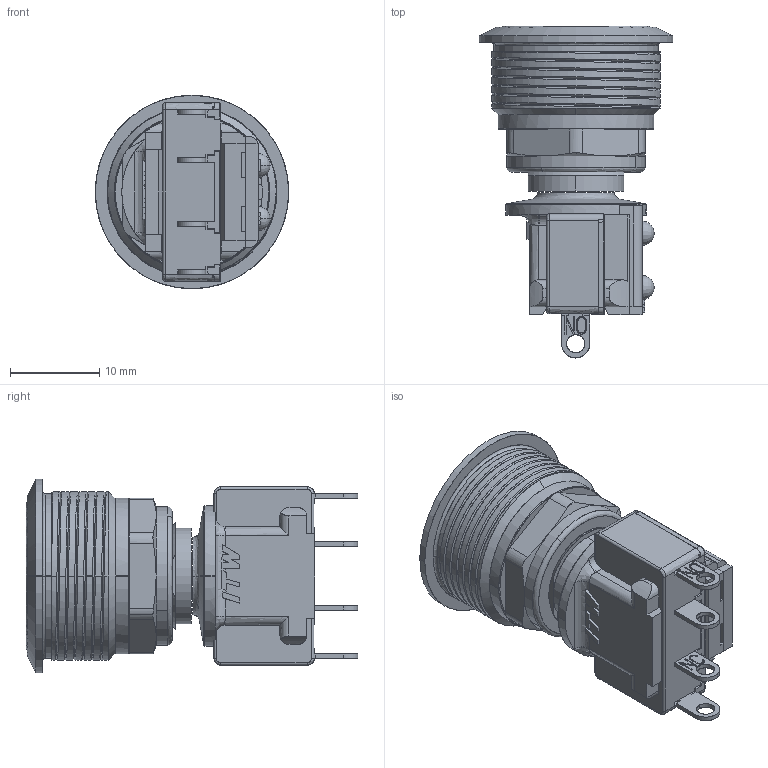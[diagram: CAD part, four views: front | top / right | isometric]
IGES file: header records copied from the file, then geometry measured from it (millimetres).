
Start section: SolidWorks IGES file using analytic representation for surfaces
Global section: file name: C:\Users\淵立\Desktop\project\3D IGS\H48M\H48M-110N-4044 & H48M-210N-4044.IGS,1; native system: 5HSolidWorks 2014; preprocessor: SolidWorks 2014; author: 淵立,,; organization: 11; date: 150720.101002; units: millimetre
Bounding box: 21.65 x 37.13 x 21.65 mm (x, y, z)
Surface area: 4970.3 mm2 (no closed solid volume)
Topology: 0 solids, 0 shells, 448 faces, 6470 edges, 6462 vertices
Faces by surface type: bspline 310, revolution 138
